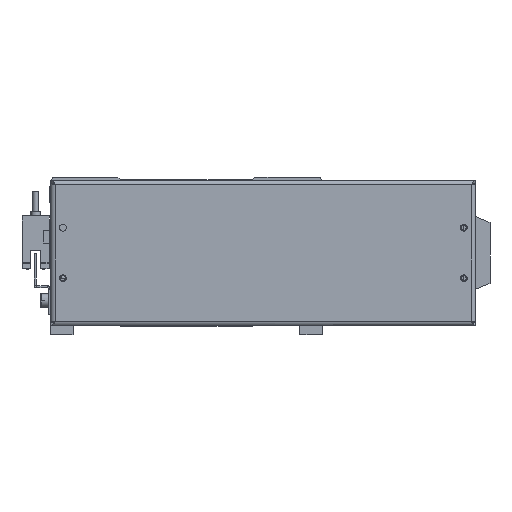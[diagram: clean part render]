
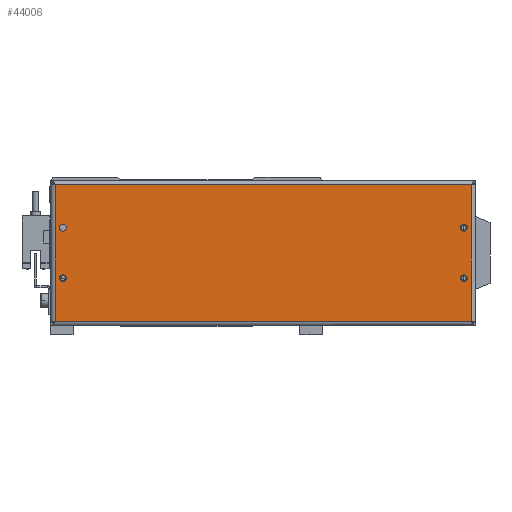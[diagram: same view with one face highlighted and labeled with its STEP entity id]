
A CAD part, front view. The second image highlights one B-rep face of the part: STEP entity #44006.
In plain terms, the highlighted planar face has unit normal (0, -1, 0) as drawn and (0, 1, 0) by its records, which use the part's own axes.
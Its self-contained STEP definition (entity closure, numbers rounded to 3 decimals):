
#30 = VERTEX_POINT ( 'NONE', #53902 ) ;
#158 = EDGE_LOOP ( 'NONE', ( #37570, #57417 ) ) ;
#630 = VECTOR ( 'NONE', #45310, 1000. ) ;
#1659 = VECTOR ( 'NONE', #30812, 1000. ) ;
#2193 = FACE_BOUND ( 'NONE', #50998, .T. ) ;
#2705 = DIRECTION ( 'NONE',  ( 0., 0., 1. ) ) ;
#3071 = CARTESIAN_POINT ( 'NONE',  ( -99., 0., -12.5 ) ) ;
#3105 = VERTEX_POINT ( 'NONE', #37172 ) ;
#3206 = EDGE_LOOP ( 'NONE', ( #48512, #60065 ) ) ;
#3649 = CIRCLE ( 'NONE', #44792, 1.7 ) ;
#4993 = CIRCLE ( 'NONE', #35585, 1.7 ) ;
#6005 = EDGE_CURVE ( 'NONE', #30, #3105, #8731, .T. ) ;
#7521 = ORIENTED_EDGE ( 'NONE', *, *, #21532, .T. ) ;
#8249 = CARTESIAN_POINT ( 'NONE',  ( -99., 0., 10.8 ) ) ;
#8266 = FACE_BOUND ( 'NONE', #47731, .T. ) ;
#8731 = LINE ( 'NONE', #26041, #630 ) ;
#9007 = AXIS2_PLACEMENT_3D ( 'NONE', #37388, #22816, #13198 ) ;
#9722 = VERTEX_POINT ( 'NONE', #27501 ) ;
#10563 = CARTESIAN_POINT ( 'NONE',  ( 99., 0., 14.2 ) ) ;
#10707 = VECTOR ( 'NONE', #14515, 1000. ) ;
#11383 = DIRECTION ( 'NONE',  ( 0., 1., 0. ) ) ;
#12002 = CIRCLE ( 'NONE', #12472, 1.7 ) ;
#12472 = AXIS2_PLACEMENT_3D ( 'NONE', #3071, #44644, #21715 ) ;
#13198 = DIRECTION ( 'NONE',  ( 0., 0., 1. ) ) ;
#14180 = CARTESIAN_POINT ( 'NONE',  ( -99., 0., -10.8 ) ) ;
#14229 = CARTESIAN_POINT ( 'NONE',  ( 99., 0., 12.5 ) ) ;
#14515 = DIRECTION ( 'NONE',  ( 1., 0., 0. ) ) ;
#15409 = CIRCLE ( 'NONE', #20477, 1.7 ) ;
#15463 = FACE_BOUND ( 'NONE', #3206, .T. ) ;
#15907 = CARTESIAN_POINT ( 'NONE',  ( -99., 0., 12.5 ) ) ;
#17258 = CARTESIAN_POINT ( 'NONE',  ( 102.763, 0., 33.793 ) ) ;
#17840 = FACE_BOUND ( 'NONE', #158, .T. ) ;
#19313 = VERTEX_POINT ( 'NONE', #54170 ) ;
#19684 = ORIENTED_EDGE ( 'NONE', *, *, #38061, .T. ) ;
#19923 = DIRECTION ( 'NONE',  ( 0., 1., 0. ) ) ;
#20363 = CARTESIAN_POINT ( 'NONE',  ( -102.763, 0., 33.763 ) ) ;
#20477 = AXIS2_PLACEMENT_3D ( 'NONE', #15907, #11383, #21024 ) ;
#20504 = VERTEX_POINT ( 'NONE', #56442 ) ;
#20780 = DIRECTION ( 'NONE',  ( 0., 0., 1. ) ) ;
#21024 = DIRECTION ( 'NONE',  ( 0., 0., 1. ) ) ;
#21532 = EDGE_CURVE ( 'NONE', #25722, #20504, #58351, .T. ) ;
#21715 = DIRECTION ( 'NONE',  ( 0., 0., 1. ) ) ;
#22816 = DIRECTION ( 'NONE',  ( 0., 1., 0. ) ) ;
#22881 = EDGE_CURVE ( 'NONE', #9722, #41493, #39181, .T. ) ;
#22889 = AXIS2_PLACEMENT_3D ( 'NONE', #34903, #26047, #2705 ) ;
#23393 = VERTEX_POINT ( 'NONE', #48765 ) ;
#23662 = DIRECTION ( 'NONE',  ( 0., 0., 1. ) ) ;
#24242 = FACE_OUTER_BOUND ( 'NONE', #28706, .T. ) ;
#24368 = ORIENTED_EDGE ( 'NONE', *, *, #56004, .T. ) ;
#25722 = VERTEX_POINT ( 'NONE', #20363 ) ;
#25843 = CIRCLE ( 'NONE', #42404, 1.7 ) ;
#26041 = CARTESIAN_POINT ( 'NONE',  ( 102.793, 0., -33.763 ) ) ;
#26047 = DIRECTION ( 'NONE',  ( 0., 1., 0. ) ) ;
#27138 = VERTEX_POINT ( 'NONE', #10563 ) ;
#27501 = CARTESIAN_POINT ( 'NONE',  ( -99., 0., -14.2 ) ) ;
#28578 = CARTESIAN_POINT ( 'NONE',  ( -99., 0., -12.5 ) ) ;
#28706 = EDGE_LOOP ( 'NONE', ( #35478, #19684, #7521, #24368 ) ) ;
#29147 = CARTESIAN_POINT ( 'NONE',  ( 99., 0., -12.5 ) ) ;
#30812 = DIRECTION ( 'NONE',  ( 0., 0., -1. ) ) ;
#32209 = ORIENTED_EDGE ( 'NONE', *, *, #55269, .F. ) ;
#32990 = EDGE_CURVE ( 'NONE', #23393, #59705, #25843, .T. ) ;
#34323 = DIRECTION ( 'NONE',  ( 0., 0., 1. ) ) ;
#34415 = PLANE ( 'NONE',  #53681 ) ;
#34529 = DIRECTION ( 'NONE',  ( 0., 1., 0. ) ) ;
#34903 = CARTESIAN_POINT ( 'NONE',  ( 99., 0., -12.5 ) ) ;
#35366 = EDGE_CURVE ( 'NONE', #27138, #36044, #3649, .T. ) ;
#35478 = ORIENTED_EDGE ( 'NONE', *, *, #6005, .T. ) ;
#35585 = AXIS2_PLACEMENT_3D ( 'NONE', #14229, #47039, #23662 ) ;
#35827 = VERTEX_POINT ( 'NONE', #8249 ) ;
#36044 = VERTEX_POINT ( 'NONE', #38329 ) ;
#36753 = EDGE_CURVE ( 'NONE', #19313, #35827, #15409, .T. ) ;
#37172 = CARTESIAN_POINT ( 'NONE',  ( -102.763, 0., -33.763 ) ) ;
#37388 = CARTESIAN_POINT ( 'NONE',  ( -99., 0., 12.5 ) ) ;
#37570 = ORIENTED_EDGE ( 'NONE', *, *, #35366, .F. ) ;
#38061 = EDGE_CURVE ( 'NONE', #3105, #25722, #52697, .T. ) ;
#38329 = CARTESIAN_POINT ( 'NONE',  ( 99., 0., 10.8 ) ) ;
#39027 = EDGE_CURVE ( 'NONE', #36044, #27138, #4993, .T. ) ;
#39084 = CARTESIAN_POINT ( 'NONE',  ( 0., 0., 0. ) ) ;
#39181 = CIRCLE ( 'NONE', #48663, 1.7 ) ;
#41493 = VERTEX_POINT ( 'NONE', #14180 ) ;
#42404 = AXIS2_PLACEMENT_3D ( 'NONE', #29147, #19923, #43696 ) ;
#42806 = CARTESIAN_POINT ( 'NONE',  ( -102.793, 0., 33.763 ) ) ;
#42994 = EDGE_CURVE ( 'NONE', #35827, #19313, #48632, .T. ) ;
#43199 = ORIENTED_EDGE ( 'NONE', *, *, #50546, .F. ) ;
#43696 = DIRECTION ( 'NONE',  ( 0., 0., 1. ) ) ;
#44006 = ADVANCED_FACE ( 'NONE', ( #8266, #15463, #2193, #17840, #24242 ), #34415, .T. ) ;
#44011 = DIRECTION ( 'NONE',  ( 0., 0., 1. ) ) ;
#44208 = DIRECTION ( 'NONE',  ( 0., 1., 0. ) ) ;
#44644 = DIRECTION ( 'NONE',  ( 0., 1., 0. ) ) ;
#44792 = AXIS2_PLACEMENT_3D ( 'NONE', #55623, #46831, #46630 ) ;
#45310 = DIRECTION ( 'NONE',  ( -1., 0., 0. ) ) ;
#46332 = ORIENTED_EDGE ( 'NONE', *, *, #22881, .F. ) ;
#46353 = ORIENTED_EDGE ( 'NONE', *, *, #32990, .F. ) ;
#46630 = DIRECTION ( 'NONE',  ( 0., 0., 1. ) ) ;
#46831 = DIRECTION ( 'NONE',  ( 0., 1., 0. ) ) ;
#47039 = DIRECTION ( 'NONE',  ( 0., 1., 0. ) ) ;
#47132 = LINE ( 'NONE', #17258, #1659 ) ;
#47731 = EDGE_LOOP ( 'NONE', ( #32209, #46332 ) ) ;
#48512 = ORIENTED_EDGE ( 'NONE', *, *, #36753, .F. ) ;
#48632 = CIRCLE ( 'NONE', #9007, 1.7 ) ;
#48663 = AXIS2_PLACEMENT_3D ( 'NONE', #28578, #34529, #34323 ) ;
#48765 = CARTESIAN_POINT ( 'NONE',  ( 99., 0., -10.8 ) ) ;
#50108 = CARTESIAN_POINT ( 'NONE',  ( 99., 0., -14.2 ) ) ;
#50546 = EDGE_CURVE ( 'NONE', #59705, #23393, #60779, .T. ) ;
#50998 = EDGE_LOOP ( 'NONE', ( #46353, #43199 ) ) ;
#52697 = LINE ( 'NONE', #57864, #54154 ) ;
#53681 = AXIS2_PLACEMENT_3D ( 'NONE', #39084, #44208, #44011 ) ;
#53902 = CARTESIAN_POINT ( 'NONE',  ( 102.763, 0., -33.763 ) ) ;
#54154 = VECTOR ( 'NONE', #20780, 1000. ) ;
#54170 = CARTESIAN_POINT ( 'NONE',  ( -99., 0., 14.2 ) ) ;
#55269 = EDGE_CURVE ( 'NONE', #41493, #9722, #12002, .T. ) ;
#55623 = CARTESIAN_POINT ( 'NONE',  ( 99., 0., 12.5 ) ) ;
#56004 = EDGE_CURVE ( 'NONE', #20504, #30, #47132, .T. ) ;
#56442 = CARTESIAN_POINT ( 'NONE',  ( 102.763, 0., 33.763 ) ) ;
#57417 = ORIENTED_EDGE ( 'NONE', *, *, #39027, .F. ) ;
#57864 = CARTESIAN_POINT ( 'NONE',  ( -102.763, 0., -33.793 ) ) ;
#58351 = LINE ( 'NONE', #42806, #10707 ) ;
#59705 = VERTEX_POINT ( 'NONE', #50108 ) ;
#60065 = ORIENTED_EDGE ( 'NONE', *, *, #42994, .F. ) ;
#60779 = CIRCLE ( 'NONE', #22889, 1.7 ) ;
